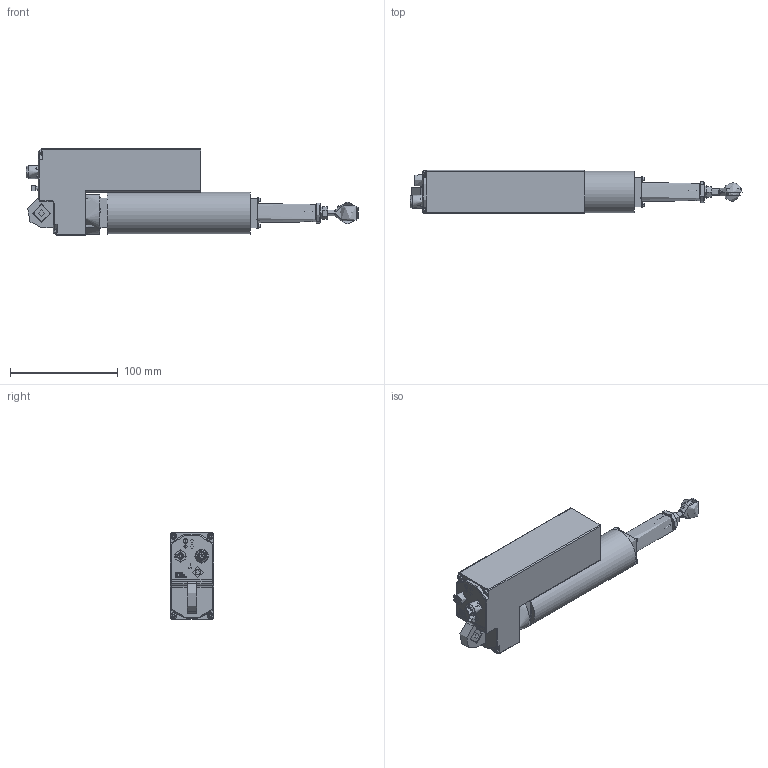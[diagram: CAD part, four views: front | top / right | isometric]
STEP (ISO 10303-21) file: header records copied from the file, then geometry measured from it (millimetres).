
FILE_DESCRIPTION (( 'STEP AP214' ), '1' );
FILE_NAME ('AG_7263+-50.STEP', '2024-05-23T08:32:54', ( '' ), ( '' ), 'SwSTEP 2.0', 'SolidWorks 2022', '' );
FILE_SCHEMA (( 'AUTOMOTIVE_DESIGN' ));
Length unit declared in the file: millimetre
Products named in the file (4): AG_7263+-50; 10654245-SPK-001_AG 7263 ±50; 10654244-SPK-001_AG 7263 ±50; 10657060-SPK-001
Assembly tree (3 placements, depth 2):
  AG_7263+-50
    10654244-SPK-001_AG 7263 ±50
    10654245-SPK-001_AG 7263 ±50
    10657060-SPK-001
Bounding box: 308.16 x 40 x 80 mm (x, y, z)
Topology: 22 solids, 35 shells, 1009 faces, 2481 edges, 1601 vertices
Faces by surface type: plane 437, cylinder 385, cone 98, torus 49, bspline 32, sphere 8
Full cylindrical faces by diameter (mm): 0.87 x4, 1.5 x4, 1.55 x1, 1.948 x4, 2.05 x10, 2.387 x2, 2.5 x4, 2.7 x12, 2.845 x2, 2.934 x2, 3 x4, 3.141 x1, 3.2 x4, 3.3 x1, 3.4 x2, 3.5 x2, 3.676 x1, 4 x3, 4.2 x1, 4.201 x1, 4.917 x1, 5 x1, 5.7 x1, 5.9 x2, 6 x1, 7 x2, 7.4 x1, 7.9 x1, 8.1 x1, 8.85 x1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
Entity records: 51227 total; most frequent: CARTESIAN_POINT 17924, DIRECTION 4880, ORIENTED_EDGE 4342, EDGE_CURVE 2171, AXIS2_PLACEMENT_3D 1956, VERTEX_POINT 1507, EDGE_LOOP 1342, FACE_OUTER_BOUND 1154
